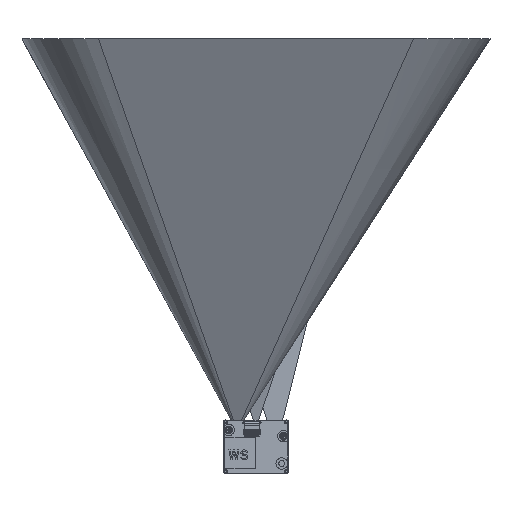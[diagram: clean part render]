
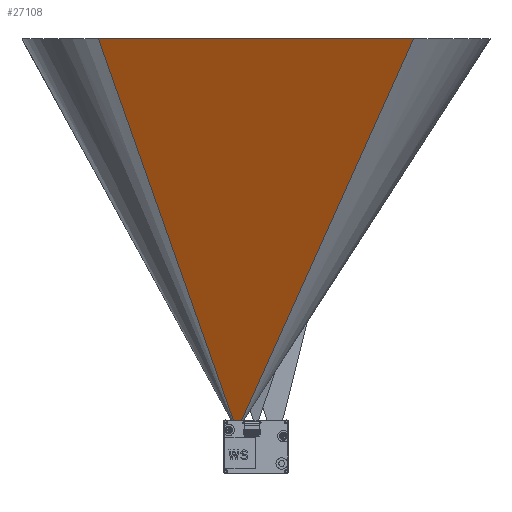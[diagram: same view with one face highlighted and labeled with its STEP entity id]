
A CAD part, top view. The second image highlights one B-rep face of the part: STEP entity #27108.
In plain terms, the highlighted planar face has unit normal (0, -0.887, -0.461) by its records, which use the part's own axes.
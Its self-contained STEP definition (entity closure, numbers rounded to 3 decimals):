
#27069=DIRECTION('',(0.3,-0.44,0.846));
#27070=VECTOR('',#27069,181.453);
#27071=CARTESIAN_POINT('',(-54.55,80.,-155.33));
#27072=LINE('',#27071,#27070);
#27073=DIRECTION('',(1.,0.,0.));
#27074=VECTOR('',#27073,0.3);
#27075=CARTESIAN_POINT('',(-0.15,0.15,-1.74));
#27076=LINE('',#27075,#27074);
#27077=DIRECTION('',(0.372,0.428,-0.824));
#27078=VECTOR('',#27077,186.463);
#27079=CARTESIAN_POINT('',(0.15,0.15,-1.74));
#27080=LINE('',#27079,#27078);
#27081=DIRECTION('',(-1.,0.,0.));
#27082=VECTOR('',#27081,124.);
#27083=CARTESIAN_POINT('',(69.45,80.,-155.33));
#27084=LINE('',#27083,#27082);
#27085=CARTESIAN_POINT('',(-0.15,0.15,-1.74));
#27086=CARTESIAN_POINT('',(-54.55,80.,-155.33));
#27087=VERTEX_POINT('',#27085);
#27088=VERTEX_POINT('',#27086);
#27089=CARTESIAN_POINT('',(0.15,0.15,-1.74));
#27090=CARTESIAN_POINT('',(69.45,80.,-155.33));
#27091=VERTEX_POINT('',#27089);
#27092=VERTEX_POINT('',#27090);
#27093=CARTESIAN_POINT('',(3.725,40.075,-78.535));
#27094=DIRECTION('',(0.,-0.887,-0.461));
#27095=DIRECTION('',(1.,0.,0.));
#27096=AXIS2_PLACEMENT_3D('',#27093,#27094,#27095);
#27097=PLANE('',#27096);
#27099=ORIENTED_EDGE('',*,*,#27098,.T.);
#27101=ORIENTED_EDGE('',*,*,#27100,.T.);
#27103=ORIENTED_EDGE('',*,*,#27102,.T.);
#27105=ORIENTED_EDGE('',*,*,#27104,.T.);
#27106=EDGE_LOOP('',(#27099,#27101,#27103,#27105));
#27107=FACE_OUTER_BOUND('',#27106,.F.);
#27108=ADVANCED_FACE('',(#27107),#27097,.T.);
#27098=EDGE_CURVE('',#27088,#27087,#27072,.T.);
#27100=EDGE_CURVE('',#27087,#27091,#27076,.T.);
#27102=EDGE_CURVE('',#27091,#27092,#27080,.T.);
#27104=EDGE_CURVE('',#27092,#27088,#27084,.T.);
